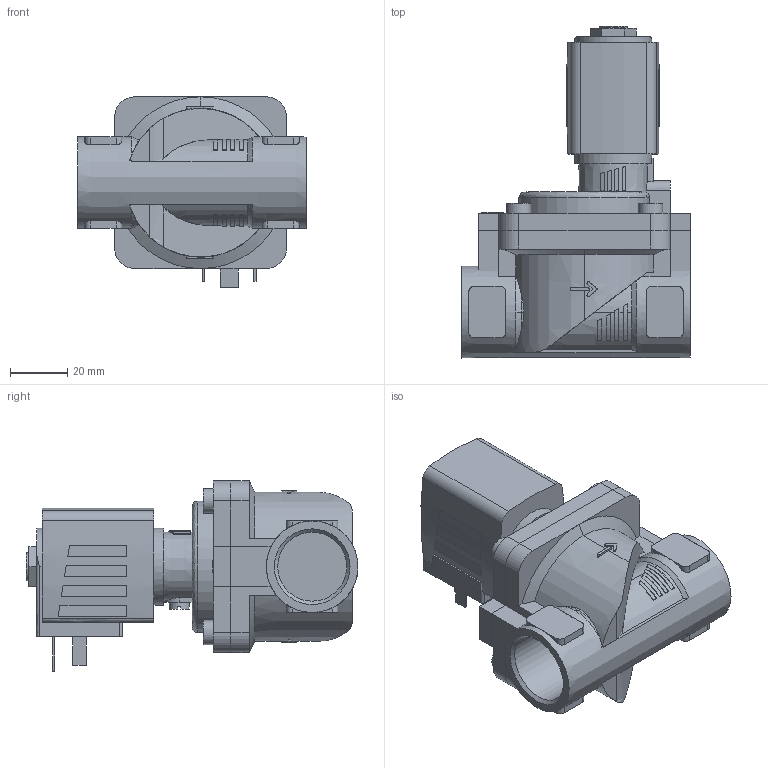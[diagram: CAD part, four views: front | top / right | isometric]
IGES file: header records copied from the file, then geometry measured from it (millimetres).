
Start section: Data from Parasolid IGES Translator 26.0.171, Copyright(c) 2006 Siemens PLM Software. All Rights Reserved.
Global section: file name: 6281-356364-2_2-Way_Solenoid_Valve__Servo-assisted__General_Purpose.igs; native system: By Siemens PLM Incorporated; preprocessor: XPlus GENERIC/IGES 26.0.171; author: Noname; organization: Noname; date: 20240820.174622; units: millimetre
Bounding box: 80 x 116 x 66.5 mm (x, y, z)
Surface area: 42296.3 mm2 (no closed solid volume)
Topology: 0 solids, 0 shells, 367 faces, 1880 edges, 1861 vertices
Faces by surface type: extrusion 240, revolution 127
